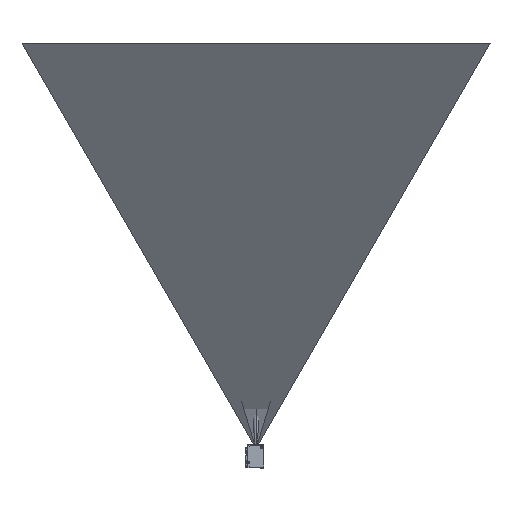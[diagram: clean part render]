
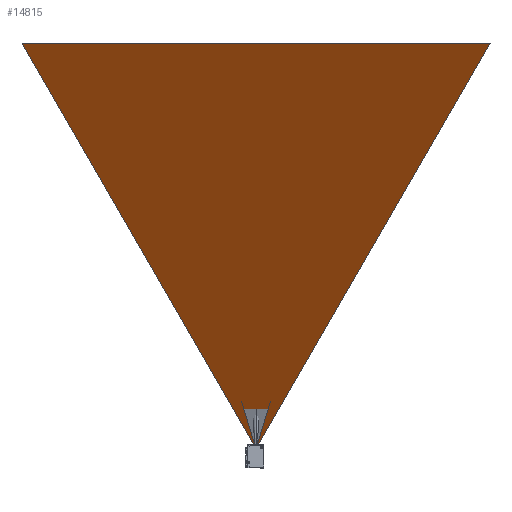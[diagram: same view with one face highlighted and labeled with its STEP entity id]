
A CAD part, left-side view. The second image highlights one B-rep face of the part: STEP entity #14815.
In plain terms, the highlighted planar face has unit normal (-0.819, 0, -0.574).
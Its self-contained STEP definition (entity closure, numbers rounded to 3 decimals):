
#14746=DIRECTION('',(-0.519,0.428,0.741));
#14747=VECTOR('',#14746,340.575);
#14748=CARTESIAN_POINT('',(7.,0.,
-2.2));
#14749=LINE('',#14748,#14747);
#14750=DIRECTION('',(0.,-1.,0.));
#14751=VECTOR('',#14750,291.215);
#14752=CARTESIAN_POINT('',(-169.592,145.608,250.));
#14753=LINE('',#14752,#14751);
#14758=DIRECTION('',(-0.519,-0.428,0.741));
#14759=VECTOR('',#14758,340.575);
#14760=CARTESIAN_POINT('',(7.,0.,
-2.2));
#14761=LINE('',#14760,#14759);
#14770=CARTESIAN_POINT('',(-169.592,145.608,250.));
#14771=VERTEX_POINT('',#14770);
#14772=CARTESIAN_POINT('',(-169.592,-145.608,250.));
#14773=VERTEX_POINT('',#14772);
#14774=CARTESIAN_POINT('',(7.,0.,
-2.2));
#14775=VERTEX_POINT('',#14774);
#14803=CARTESIAN_POINT('',(7.,-330.,-2.2));
#14804=DIRECTION('',(-0.819,0.,-0.574));
#14805=DIRECTION('',(-0.574,0.,0.819));
#14806=AXIS2_PLACEMENT_3D('',#14803,#14804,#14805);
#14807=PLANE('',#14806);
#14808=ORIENTED_EDGE('',*,*,#14798,.T.);
#14810=ORIENTED_EDGE('',*,*,#14809,.T.);
#14812=ORIENTED_EDGE('',*,*,#14811,.F.);
#14813=EDGE_LOOP('',(#14808,#14810,#14812));
#14814=FACE_OUTER_BOUND('',#14813,.F.);
#14798=EDGE_CURVE('',#14775,#14771,#14749,.T.);
#14809=EDGE_CURVE('',#14771,#14773,#14753,.T.);
#14811=EDGE_CURVE('',#14775,#14773,#14761,.T.);
#14815=ADVANCED_FACE('',(#14814),#14807,.T.);
